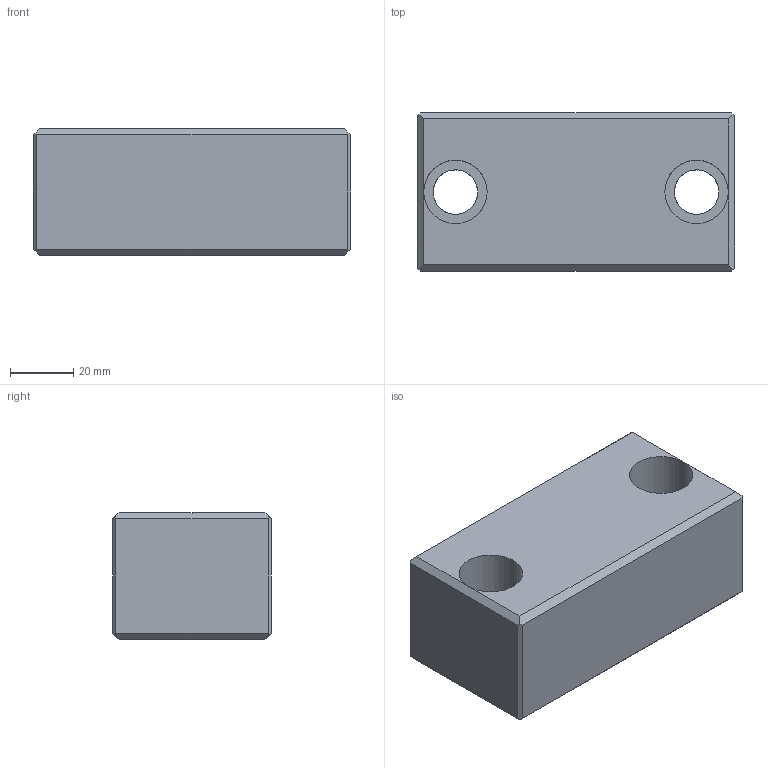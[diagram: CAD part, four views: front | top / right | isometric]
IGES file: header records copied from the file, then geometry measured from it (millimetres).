
Start section: START RECORD GO HERE.
Global section: file name: 759+100+50+40+6.igs; native system: DASSAULT SYSTEMES CATIA V5 R20 - www.3ds.com; preprocessor: CATIA Version 5 Release 20 ; author: Utente; organization: NB04-ASUS; date: 20201028.201304; units: millimetre
Bounding box: 100 x 50 x 40 mm (x, y, z)
Surface area: 25381.2 mm2 (no closed solid volume)
Topology: 0 solids, 0 shells, 28 faces, 148 edges, 146 vertices
Faces by surface type: plane 20, revolution 8
